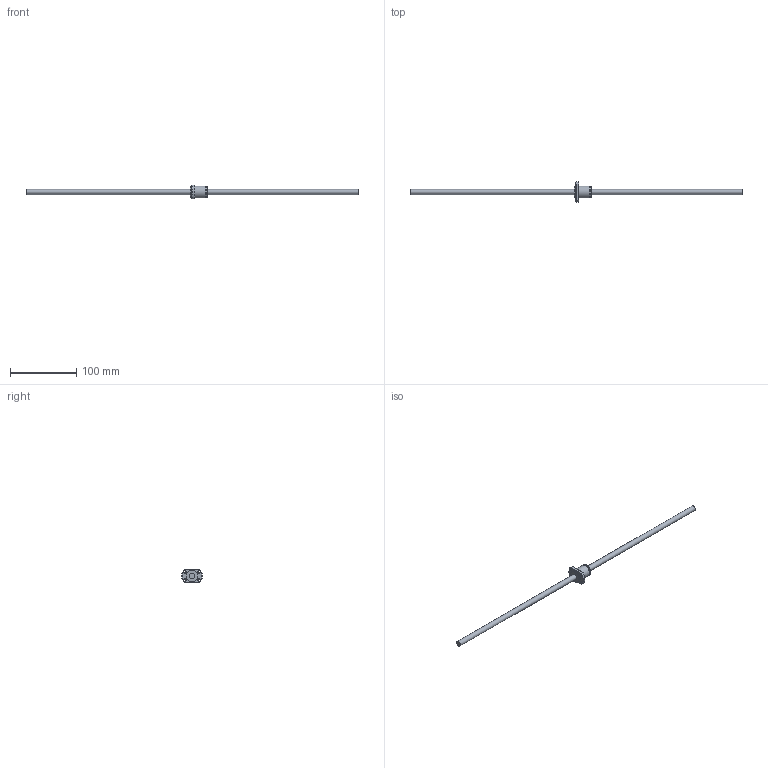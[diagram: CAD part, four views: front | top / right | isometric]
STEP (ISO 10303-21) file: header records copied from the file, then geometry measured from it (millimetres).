
FILE_DESCRIPTION (( 'STEP AP203' ), '1' );
FILE_NAME ('SFJ00808-1.8.STEP', '2024-05-09T07:51:45', ( '' ), ( '' ), 'SwSTEP 2.0', 'SolidWorks 2022', '' );
FILE_SCHEMA (( 'CONFIG_CONTROL_DESIGN' ));
Length unit declared in the file: millimetre
Products named in the file (1): SFJ00808-1.8
Bounding box: 500 x 30.91 x 20 mm (x, y, z)
Volume: 31212.7 mm3; surface area: 16115.6 mm2
Topology: 2 solids, 2 shells, 47 faces, 107 edges, 67 vertices
Faces by surface type: plane 13, cylinder 13, torus 13, cone 8
Full cylindrical faces by diameter (mm): 3.4 x4, 8 x1, 8.9 x1, 17.8 x4, 18 x1
Entity records: 1287 total; most frequent: CARTESIAN_POINT 278, DIRECTION 198, ORIENTED_EDGE 146, AXIS2_PLACEMENT_3D 93, EDGE_LOOP 88, EDGE_CURVE 73, FACE_OUTER_BOUND 67, VERTEX_POINT 61
